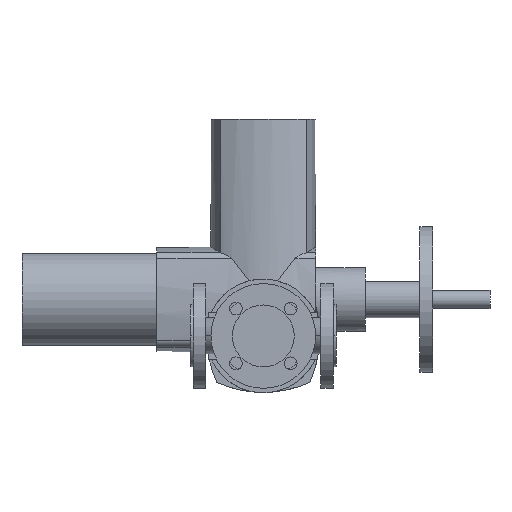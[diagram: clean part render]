
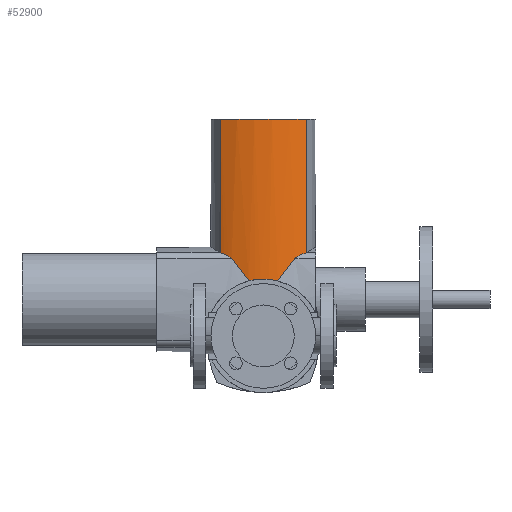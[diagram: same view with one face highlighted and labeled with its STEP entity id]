
A CAD part, front view. The second image highlights one B-rep face of the part: STEP entity #52900.
In plain terms, the highlighted cylindrical face has radius 115 mm (diameter 230 mm), a partial arc.
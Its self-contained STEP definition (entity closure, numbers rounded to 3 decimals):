
#46180=CARTESIAN_POINT('',(114.68,370.854,
84.785));
#46190=VERTEX_POINT('',#46180);
#46220=CARTESIAN_POINT('',(114.68,370.854,
84.785));
#46230=CARTESIAN_POINT('',(115.206,371.02,
85.472));
#46240=CARTESIAN_POINT('',(115.894,371.243,
86.07));
#46250=CARTESIAN_POINT('',(116.976,371.606,
86.869));
#46260=CARTESIAN_POINT('',(117.415,371.756,
87.158));
#46270=CARTESIAN_POINT('',(118.325,372.073,
87.707));
#46280=CARTESIAN_POINT('',(118.795,372.24,
87.967));
#46290=CARTESIAN_POINT('',(120.241,372.766,
88.707));
#46300=CARTESIAN_POINT('',(121.249,373.147,
89.151));
#46310=CARTESIAN_POINT('',(123.292,373.954,
89.947));
#46320=CARTESIAN_POINT('',(124.326,374.38,
90.299));
#46330=CARTESIAN_POINT('',(126.011,375.103,
90.807));
#46340=CARTESIAN_POINT('',(126.671,375.394,
90.99));
#46350=CARTESIAN_POINT('',(127.315,375.685,
91.153));
#46360=B_SPLINE_CURVE_WITH_KNOTS('',3,(#46220,#46230,#46240,#46250,
#46260,#46270,#46280,#46290,#46300,#46310,#46320,#46330,#46340,#46350),
.UNSPECIFIED.,.F.,.F.,(4,2,2,2,2,2,4),(20.679,23.247
,24.859,26.47,29.694,32.917,
35.031),.UNSPECIFIED.);
#46370=CARTESIAN_POINT('',(127.315,375.685,
91.153));
#46380=VERTEX_POINT('',#46370);
#46390=EDGE_CURVE('',#46190,#46380,#46360,.T.);
#47390=CARTESIAN_POINT('',(45.32,370.854,
84.785));
#47400=VERTEX_POINT('',#47390);
#47430=CARTESIAN_POINT('',(45.32,370.854,
84.785));
#47440=CARTESIAN_POINT('',(47.812,370.066,
81.536));
#47450=CARTESIAN_POINT('',(50.423,369.334,
78.142));
#47460=CARTESIAN_POINT('',(56.06,367.978,
70.835));
#47470=CARTESIAN_POINT('',(59.101,367.373,
66.905));
#47480=CARTESIAN_POINT('',(62.804,366.791,
62.128));
#47490=CARTESIAN_POINT('',(63.456,366.694,
61.287));
#47500=CARTESIAN_POINT('',(64.108,366.603,
60.446));
#47510=B_SPLINE_CURVE_WITH_KNOTS('',3,(#47430,#47440,#47450,#47460,
#47470,#47480,#47490,#47500),.UNSPECIFIED.,.F.,.F.,(4,2,2,4),(
1.278,13.675,27.349,30.271),
.UNSPECIFIED.);
#47520=CARTESIAN_POINT('',(64.108,366.603,
60.446));
#47530=VERTEX_POINT('',#47520);
#47540=EDGE_CURVE('',#47400,#47530,#47510,.T.);
#48140=CARTESIAN_POINT('',(95.892,366.603,
60.446));
#48150=VERTEX_POINT('',#48140);
#48180=CARTESIAN_POINT('',(95.892,366.603,
60.446));
#48190=CARTESIAN_POINT('',(96.544,366.694,
61.287));
#48200=CARTESIAN_POINT('',(97.196,366.791,
62.128));
#48210=CARTESIAN_POINT('',(100.899,367.373,
66.905));
#48220=CARTESIAN_POINT('',(103.94,367.978,
70.835));
#48230=CARTESIAN_POINT('',(109.577,369.334,
78.142));
#48240=CARTESIAN_POINT('',(112.188,370.066,
81.536));
#48250=CARTESIAN_POINT('',(114.68,370.854,
84.785));
#48260=B_SPLINE_CURVE_WITH_KNOTS('',3,(#48180,#48190,#48200,#48210,
#48220,#48230,#48240,#48250),.UNSPECIFIED.,.F.,.F.,(4,2,2,4),(
24.427,27.349,41.024,53.421),
.UNSPECIFIED.);
#48270=EDGE_CURVE('',#48150,#46190,#48260,.T.);
#49750=CARTESIAN_POINT('',(32.685,375.685,
91.153));
#49760=CARTESIAN_POINT('',(33.329,375.394,
90.99));
#49770=CARTESIAN_POINT('',(33.989,375.103,
90.807));
#49780=CARTESIAN_POINT('',(35.674,374.38,
90.299));
#49790=CARTESIAN_POINT('',(36.708,373.954,
89.947));
#49800=CARTESIAN_POINT('',(38.751,373.147,
89.151));
#49810=CARTESIAN_POINT('',(39.759,372.765,
88.707));
#49820=CARTESIAN_POINT('',(41.205,372.24,
87.967));
#49830=CARTESIAN_POINT('',(41.675,372.073,
87.707));
#49840=CARTESIAN_POINT('',(42.585,371.756,
87.158));
#49850=CARTESIAN_POINT('',(43.024,371.606,
86.869));
#49860=CARTESIAN_POINT('',(44.106,371.243,
86.07));
#49870=CARTESIAN_POINT('',(44.794,371.02,
85.472));
#49880=CARTESIAN_POINT('',(45.32,370.854,
84.785));
#49890=B_SPLINE_CURVE_WITH_KNOTS('',3,(#49750,#49760,#49770,#49780,
#49790,#49800,#49810,#49820,#49830,#49840,#49850,#49860,#49870,#49880),
.UNSPECIFIED.,.F.,.F.,(4,2,2,2,2,2,4),(1.109,3.223
,6.446,9.67,11.281,12.893,
15.461),.UNSPECIFIED.);
#49900=CARTESIAN_POINT('',(32.685,375.685,
91.153));
#49910=VERTEX_POINT('',#49900);
#49920=EDGE_CURVE('',#49910,#47400,#49890,.T.);
#51620=CARTESIAN_POINT('',(32.685,375.685,238.));
#51630=VERTEX_POINT('',#51620);
#51660=CARTESIAN_POINT('',(32.685,375.685,238.));
#51670=DIRECTION('',(0.,0.,-1.));
#51680=VECTOR('',#51670,1.);
#51690=LINE('',#51660,#51680);
#51700=EDGE_CURVE('',#51630,#49910,#51690,.T.);
#52340=CARTESIAN_POINT('',(80.,480.5,238.));
#52350=DIRECTION('',(0.,-0.,1.));
#52360=DIRECTION('',(-0.411,-0.911,0.));
#52370=AXIS2_PLACEMENT_3D('',#52340,#52350,#52360);
#52380=CYLINDRICAL_SURFACE('',#52370,115.);
#52390=ORIENTED_EDGE('',*,*,#51700,.T.);
#52400=CARTESIAN_POINT('',(80.,480.5,238.));
#52410=DIRECTION('',(0.,0.,1.));
#52420=DIRECTION('',(-0.411,-0.911,0.));
#52430=AXIS2_PLACEMENT_3D('',#52400,#52410,#52420);
#52440=CIRCLE('',#52430,115.);
#52450=CARTESIAN_POINT('',(127.315,375.685,238.));
#52460=VERTEX_POINT('',#52450);
#52470=EDGE_CURVE('',#51630,#52460,#52440,.T.);
#52480=ORIENTED_EDGE('',*,*,#52470,.F.);
#52490=CARTESIAN_POINT('',(127.315,375.685,238.));
#52500=DIRECTION('',(0.,0.,-1.));
#52510=VECTOR('',#52500,1.);
#52520=LINE('',#52490,#52510);
#52530=EDGE_CURVE('',#52460,#46380,#52520,.T.);
#52540=ORIENTED_EDGE('',*,*,#52530,.F.);
#52550=ORIENTED_EDGE('',*,*,#46390,.T.);
#52560=ORIENTED_EDGE('',*,*,#48270,.T.);
#52570=CARTESIAN_POINT('',(127.315,375.685,
40.835));
#52580=CARTESIAN_POINT('',(126.562,375.344,
41.708));
#52590=CARTESIAN_POINT('',(125.78,375.001,
42.566));
#52600=CARTESIAN_POINT('',(123.357,373.972,
45.076));
#52610=CARTESIAN_POINT('',(121.635,373.284,
46.673));
#52620=CARTESIAN_POINT('',(117.993,371.94,
49.682));
#52630=CARTESIAN_POINT('',(116.074,371.284,
51.094));
#52640=CARTESIAN_POINT('',(112.068,370.042,
53.699));
#52650=CARTESIAN_POINT('',(109.981,369.455,
54.893));
#52660=CARTESIAN_POINT('',(105.672,368.38,
57.035));
#52670=CARTESIAN_POINT('',(103.449,367.892,
57.985));
#52680=CARTESIAN_POINT('',(98.903,367.041,
59.622));
#52690=CARTESIAN_POINT('',(96.581,366.677,
60.309));
#52700=CARTESIAN_POINT('',(91.882,366.091,
61.408));
#52710=CARTESIAN_POINT('',(89.505,365.869,
61.819));
#52720=CARTESIAN_POINT('',(84.745,365.573,
62.366));
#52730=CARTESIAN_POINT('',(82.361,365.5,62.5));
#52740=CARTESIAN_POINT('',(77.639,365.5,62.5));
#52750=CARTESIAN_POINT('',(75.255,365.573,
62.366));
#52760=CARTESIAN_POINT('',(70.495,365.869,
61.819));
#52770=CARTESIAN_POINT('',(68.118,366.091,
61.408));
#52780=CARTESIAN_POINT('',(63.419,366.677,
60.309));
#52790=CARTESIAN_POINT('',(61.097,367.041,
59.622));
#52800=CARTESIAN_POINT('',(57.62,367.692,
58.37));
#52810=CARTESIAN_POINT('',(56.429,367.935,
57.899));
#52820=CARTESIAN_POINT('',(55.255,368.194,
57.393));
#52830=B_SPLINE_CURVE_WITH_KNOTS('',3,(#52570,#52580,#52590,#52600,
#52610,#52620,#52630,#52640,#52650,#52660,#52670,#52680,#52690,#52700,
#52710,#52720,#52730,#52740,#52750,#52760,#52770,#52780,#52790,#52800,
#52810,#52820),.UNSPECIFIED.,.F.,.F.,(4,2,2,2,2,2,2,2,2,2,2,2,4),(
3.527,7.084,14.168,21.252,
28.336,35.421,42.505,49.589,
56.673,63.757,70.841,77.925,
81.679),.UNSPECIFIED.);
#52840=EDGE_CURVE('',#48150,#47530,#52830,.T.);
#52850=ORIENTED_EDGE('',*,*,#52840,.F.);
#52860=ORIENTED_EDGE('',*,*,#47540,.T.);
#52870=ORIENTED_EDGE('',*,*,#49920,.T.);
#52880=EDGE_LOOP('',(#52870,#52860,#52850,#52560,#52550,#52540,#52480,
#52390));
#52890=FACE_OUTER_BOUND('',#52880,.T.);
#52900=ADVANCED_FACE('',(#52890),#52380,.T.);
